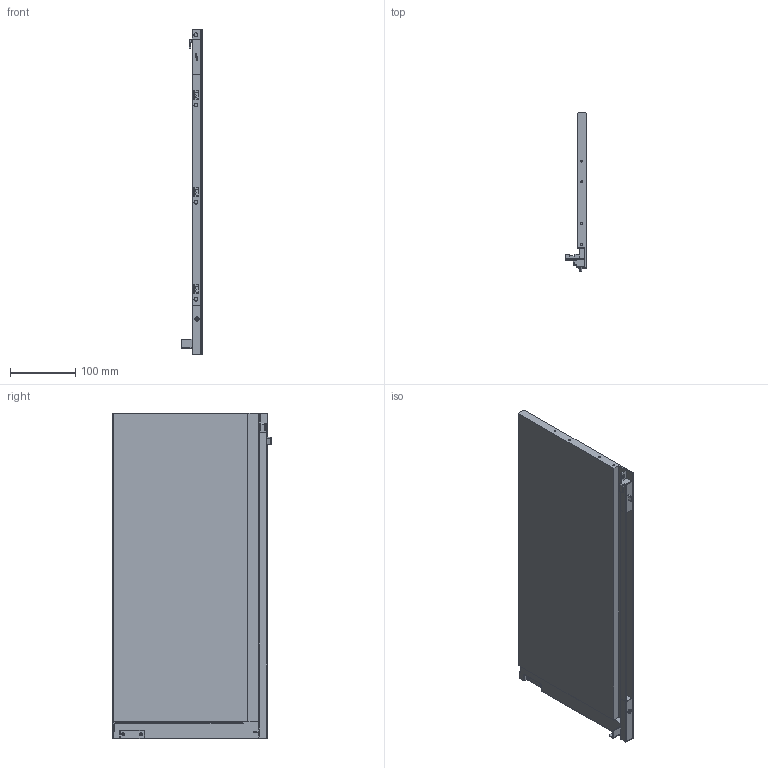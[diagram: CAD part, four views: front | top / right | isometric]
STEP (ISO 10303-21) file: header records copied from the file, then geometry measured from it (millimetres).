
FILE_DESCRIPTION (( 'STEP AP203' ), '1' );
FILE_NAME ('HT145001-R.STEP', '2021-03-16T02:45:04', ( 'Users' ), ( 'Microsoft' ), 'SwSTEP 2.0', 'SolidWorks 2018', '' );
FILE_SCHEMA (( 'CONFIG_CONTROL_DESIGN' ));
Length unit declared in the file: millimetre
Products named in the file (1): HT145001-R
Bounding box: 31.3 x 243 x 499 mm (x, y, z)
Volume: 1390115.9 mm3; surface area: 284573 mm2
Topology: 1 solids, 8 shells, 408 faces, 1031 edges, 641 vertices
Faces by surface type: plane 201, cylinder 143, torus 29, bspline 23, cone 6, sphere 6
Entity records: 12712 total; most frequent: CARTESIAN_POINT 2976, ORIENTED_EDGE 2044, DIRECTION 1979, EDGE_CURVE 1022, AXIS2_PLACEMENT_3D 674, VERTEX_POINT 641, LINE 631, VECTOR 631
